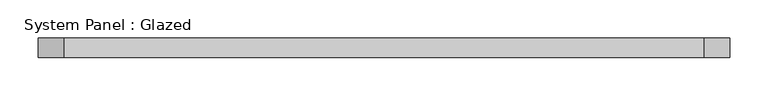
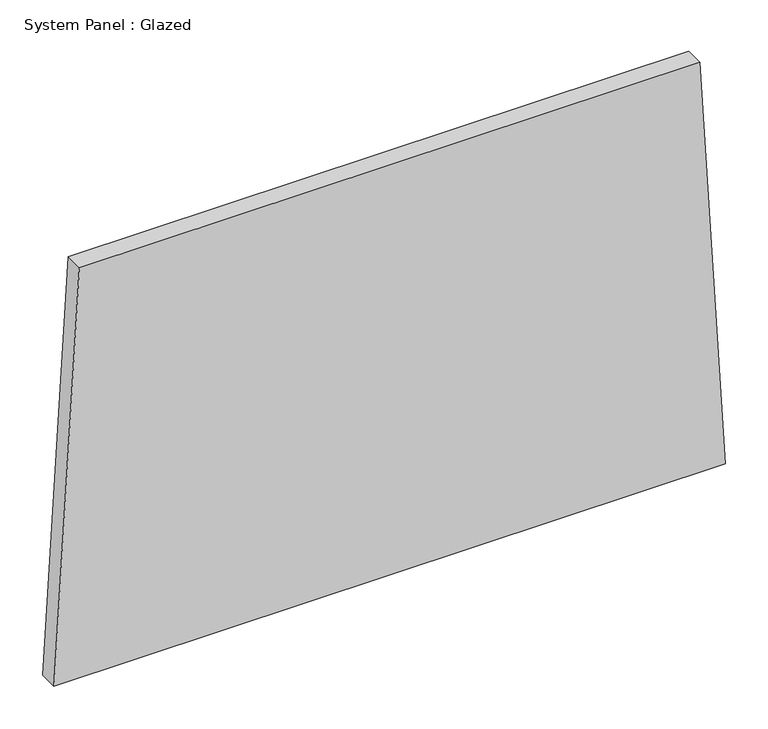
"""IFC4 building model written with IfcOpenShell, lengths in millimetres: plate geometry, System Panel : Glazed."""

import ifcopenshell
import ifcopenshell.guid

model = None  # the IFC model being written
_history = None  # IfcOwnerHistory: only IFC2X3 demands one
_inside = {}  # id of a spatial element -> (the spatial element, [elements in it])
_under = {}  # id of a project, library or spatial element -> (it, [spatial elements below it])
_declared = {}  # id of a project -> (the project, [libraries it declares])
_typed = {}  # id of a type object -> (the type object, [elements of that type])
_made_of = {}  # id of a material, layer set ... -> (it, [elements and type objects made of it])


def new_model(schema):
    """Start an empty IFC model of exactly this schema.

    Asked for "IFC4X3", IfcOpenShell would pick the latest addendum, in which some entities
    have other attributes; the version numbers below select the first issue.
    IFC2X3 requires an IfcOwnerHistory on every rooted entity: one is made here for all.
    """
    global model, _history
    if schema == "IFC4X3":
        model = ifcopenshell.file(schema_version=(4, 3, 0, 0))
    else:
        model = ifcopenshell.file(schema=schema)
    _inside.clear()
    _under.clear()
    _declared.clear()
    _typed.clear()
    _made_of.clear()
    _history = None
    if model.schema == "IFC2X3":
        org = make("IfcOrganization", Name="unknown")
        user = make(
            "IfcPersonAndOrganization",
            ThePerson=make("IfcPerson", FamilyName="unknown"),
            TheOrganization=org,
        )
        app = make(
            "IfcApplication",
            ApplicationDeveloper=org,
            Version="unknown",
            ApplicationFullName="unknown",
            ApplicationIdentifier="unknown",
        )
        _history = make(
            "IfcOwnerHistory",
            OwningUser=user,
            OwningApplication=app,
            ChangeAction="ADDED",
            CreationDate=0,
        )
    return model


def make(cls, **values):
    """One entity of the class cls with the attributes given. An attribute that is None is left unset."""
    return model.create_entity(
        cls, **{name: value for name, value in values.items() if value is not None}
    )


def rooted(cls, **values):
    """An entity with a GlobalId (a new one), such as an element, a storey or a relation."""
    return make(cls, GlobalId=ifcopenshell.guid.new(), OwnerHistory=_history, **values)


def si_unit(unit_type, name, prefix=None):
    """IfcSIUnit, for example si_unit("LENGTHUNIT", "METRE", prefix="MILLI")."""
    return make("IfcSIUnit", UnitType=unit_type, Prefix=prefix, Name=name)


def assignment(units):
    """IfcUnitAssignment: the units of a project."""
    return None if units is None else make("IfcUnitAssignment", Units=units)


def point(xyz):
    """IfcCartesianPoint."""
    return None if xyz is None else make("IfcCartesianPoint", Coordinates=xyz)


def direction(xyz):
    """IfcDirection."""
    return None if xyz is None else make("IfcDirection", DirectionRatios=xyz)


def frame(location, z_axis=None, x_axis=None):
    """IfcAxis2Placement3D, a coordinate frame: its origin and axes. An axis left out is left unset."""
    return make(
        "IfcAxis2Placement3D",
        Location=point(location),
        Axis=direction(z_axis),
        RefDirection=direction(x_axis),
    )


def origin():
    """The frame at (0, 0, 0) with its axes left unset."""
    return frame((0.0, 0.0, 0.0))


def place(relative_to, where):
    """IfcLocalPlacement: puts the frame where relative to a parent placement (None: the world)."""
    return make(
        "IfcLocalPlacement", PlacementRelTo=relative_to, RelativePlacement=where
    )


def context(
    kind, dimensions, precision=None, world=None, true_north=None, identifier=None
):
    """IfcGeometricRepresentationContext, for example the 3D "Model" context."""
    return make(
        "IfcGeometricRepresentationContext",
        ContextIdentifier=identifier,
        ContextType=kind,
        CoordinateSpaceDimension=dimensions,
        Precision=precision,
        WorldCoordinateSystem=world,
        TrueNorth=true_north,
    )


def project(units=None, contexts=None):
    """IfcProject with its units and contexts."""
    return rooted(
        "IfcProject",
        Name="project",
        RepresentationContexts=contexts,
        UnitsInContext=assignment(units),
    )


def spatial(cls, under=None, at=None, **own):
    """A site, building, storey or space (cls), placed at a placement, below another one or the project."""
    s = rooted(cls, ObjectPlacement=at, **own)
    if under is not None:
        _under.setdefault(under.id(), (under, []))[1].append(s)
    return s


def polyline(points):
    """IfcPolyline through the points."""
    return make("IfcPolyline", Points=[point(p) for p in points])


def outline(outer, holes=None, kind="AREA"):
    """IfcArbitraryClosedProfileDef: a profile drawn as a closed curve; with holes, ...WithVoids."""
    if holes is None:
        return make("IfcArbitraryClosedProfileDef", ProfileType=kind, OuterCurve=outer)
    return make(
        "IfcArbitraryProfileDefWithVoids",
        ProfileType=kind,
        OuterCurve=outer,
        InnerCurves=holes,
    )


def extrude(swept, where, along, depth):
    """IfcExtrudedAreaSolid: the profile swept, set in the frame where, extruded along a direction by depth."""
    return make(
        "IfcExtrudedAreaSolid",
        SweptArea=swept,
        Position=where,
        ExtrudedDirection=direction(along),
        Depth=depth,
    )


def shape(context_of_items, identifier, shape_type, items):
    """IfcShapeRepresentation: the items that make up one representation, for example the "Body"."""
    return make(
        "IfcShapeRepresentation",
        ContextOfItems=context_of_items,
        RepresentationIdentifier=identifier,
        RepresentationType=shape_type,
        Items=items,
    )


def source(mapping_origin, context_of_items, identifier, shape_type, items):
    """IfcRepresentationMap: a shape defined once, which mapped items show again and again."""
    return make(
        "IfcRepresentationMap",
        MappingOrigin=mapping_origin,
        MappedRepresentation=shape(context_of_items, identifier, shape_type, items),
    )


def transform(
    local_origin,
    x_axis=None,
    y_axis=None,
    z_axis=None,
    scale=None,
    scale2=None,
    scale3=None,
    uniform=True,
):
    """IfcCartesianTransformationOperator3D, or its non-uniform kind. x_axis, y_axis, z_axis: its Axis1, 2, 3."""
    if uniform:
        return make(
            "IfcCartesianTransformationOperator3D",
            Axis1=direction(x_axis),
            Axis2=direction(y_axis),
            LocalOrigin=point(local_origin),
            Scale=scale,
            Axis3=direction(z_axis),
        )
    return make(
        "IfcCartesianTransformationOperator3DnonUniform",
        Axis1=direction(x_axis),
        Axis2=direction(y_axis),
        LocalOrigin=point(local_origin),
        Scale=scale,
        Axis3=direction(z_axis),
        Scale2=scale2,
        Scale3=scale3,
    )


def mapped(mapping_source, mapping_target):
    """IfcMappedItem: shows the shape of a source again, moved by a transform."""
    return make(
        "IfcMappedItem", MappingSource=mapping_source, MappingTarget=mapping_target
    )


def made_of(thing, what):
    """Note that an element or type object is made of a material, layer set ...; save() writes the relation."""
    if what is not None:
        _made_of.setdefault(what.id(), (what, []))[1].append(thing)
    return thing


def element(
    cls,
    number,
    at=None,
    inside=None,
    cuts=None,
    type_object=None,
    material=None,
    context=None,
    identifier="Body",
    shape_type=None,
    held_by="IfcProductDefinitionShape",
    body=None,
    shapes=None,
    **own,
):
    """One element of the class cls, such as IfcWall. Its Tag is "e" and its number.

    at: its placement. inside: the storey or other place that contains it. cuts: it is an
    opening in that element (IfcRelVoidsElement). A single representation is given by context,
    identifier, shape_type and body (its items); several are given by shapes. held_by: the class
    of the entity that holds the representations. save() writes the other relations.
    """
    e = rooted(cls, Tag="e%d" % number, ObjectPlacement=at, **own)
    if body is not None:
        shapes = [shape(context, identifier, shape_type, body)]
    if shapes is not None:
        e.Representation = make(held_by, Representations=shapes)
    if inside is not None:
        _inside.setdefault(inside.id(), (inside, []))[1].append(e)
    if cuts is not None:
        rooted(
            "IfcRelVoidsElement", RelatingBuildingElement=cuts, RelatedOpeningElement=e
        )
    if type_object is not None:
        _typed.setdefault(type_object.id(), (type_object, []))[1].append(e)
    return made_of(e, material)


def aggregate(whole, parts):
    """IfcRelAggregates: a whole, such as a stair, and the parts it consists of."""
    return rooted("IfcRelAggregates", RelatingObject=whole, RelatedObjects=parts)


def save(model, path):
    """Write the relations noted so far, then the file.

    IfcRelAggregates (storeys below a building ...), IfcRelContainedInSpatialStructure (elements
    in a storey), IfcRelDefinesByType, IfcRelAssociatesMaterial and IfcRelDeclares: one each for
    every whole, place, type object, material and project.
    """
    for whole, parts in _under.values():
        aggregate(whole, parts)
    for where, things in _inside.values():
        rooted(
            "IfcRelContainedInSpatialStructure",
            RelatedElements=things,
            RelatingStructure=where,
        )
    for kind, things in _typed.values():
        rooted("IfcRelDefinesByType", RelatedObjects=things, RelatingType=kind)
    for what, things in _made_of.values():
        rooted("IfcRelAssociatesMaterial", RelatedObjects=things, RelatingMaterial=what)
    for by, libraries in _declared.values():
        rooted("IfcRelDeclares", RelatingContext=by, RelatedDefinitions=libraries)
    model.write(path)


def system_panel_glazed_0c8f51a5(model_context):
    return source(origin(), model_context, "Body", "SweptSolid", [
        extrude(outline(polyline([(0.0, -451.5250405), (0.0, 451.5250405), (583.1579468, 417.3836652), (583.1579468, -417.3836652), (0.0, -451.5250405)])), frame((0.0, -44.45, 0.0), z_axis=(0.0, 1.0, 0.0), x_axis=(0.0, 0.0, 1.0)), (0.0, 0.0, 1.0), 25.4),
    ])


if __name__ == "__main__":
    model = new_model("IFC4")
    model_context = context("Model", 3, world=origin())
    ifc_project = project(units=[si_unit("LENGTHUNIT", "METRE", prefix="MILLI")], contexts=[model_context])
    site = spatial("IfcSite", under=ifc_project)
    building = spatial("IfcBuilding", under=site)
    placement = place(None, origin())
    system_panel_glazed_shape = system_panel_glazed_0c8f51a5(model_context)
    element("IfcPlate", 1, ObjectType="System Panel : Glazed", at=placement, inside=building, context=model_context, shape_type="MappedRepresentation", body=[
        mapped(system_panel_glazed_shape, transform((0.0, 0.0, 0.0), x_axis=(1.0, 0.0, 0.0), y_axis=(0.0, 1.0, 0.0), z_axis=(0.0, 0.0, 1.0))),
    ])
    save(model, "model.ifc")
